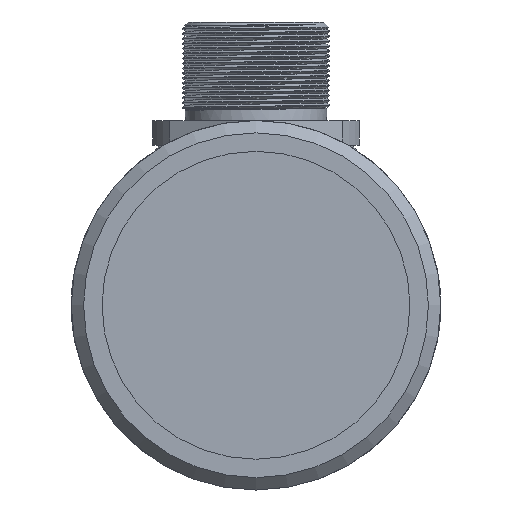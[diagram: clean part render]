
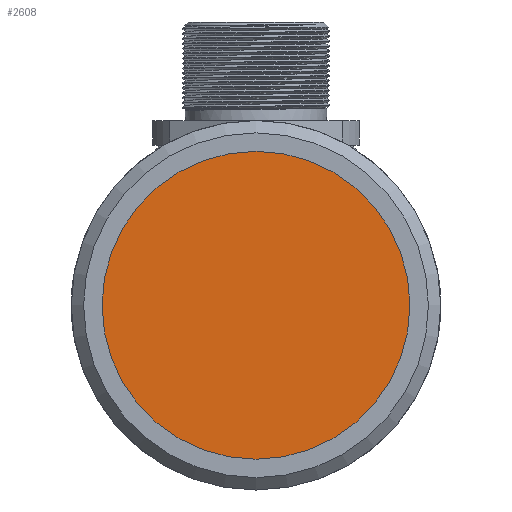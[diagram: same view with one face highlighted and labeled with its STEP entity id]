
A CAD part, left-side view. The second image highlights one B-rep face of the part: STEP entity #2608.
In plain terms, the highlighted planar face has unit normal (-1, 0, 0).
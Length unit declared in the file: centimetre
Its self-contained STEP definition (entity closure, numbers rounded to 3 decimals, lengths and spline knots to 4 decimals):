
#790=CIRCLE('',#2768,1.25);
#877=VERTEX_POINT('',#3527);
#1296=EDGE_CURVE('',#877,#877,#790,.T.);
#1618=ORIENTED_EDGE('',*,*,#1296,.T.);
#2217=EDGE_LOOP('',(#1618));
#2414=FACE_BOUND('',#2217,.T.);
#2608=ADVANCED_FACE('',(#2414),#14433,.T.);
#2768=AXIS2_PLACEMENT_3D('',#3526,#2971,#2972);
#2770=AXIS2_PLACEMENT_3D('',#3530,#2975,$);
#2971=DIRECTION('',(-1.,0.,0.));
#2972=DIRECTION('',(0.,0.,1.25));
#2975=DIRECTION('',(-1.,0.,0.));
#3526=CARTESIAN_POINT('',(0.1,0.,0.));
#3527=CARTESIAN_POINT('',(0.1,0.,1.25));
#3530=CARTESIAN_POINT('',(0.1,0.,0.));
#14433=PLANE('',#2770);
